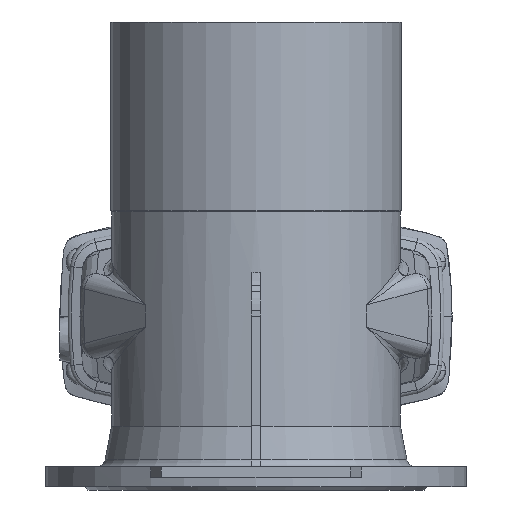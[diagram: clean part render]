
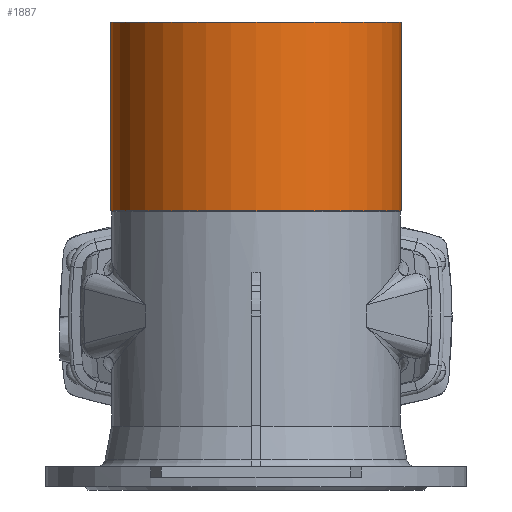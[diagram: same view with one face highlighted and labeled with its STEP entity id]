
A CAD part, front view. The second image highlights one B-rep face of the part: STEP entity #1887.
In plain terms, the highlighted cylindrical face has radius 137.7 mm (diameter 275.4 mm), a partial arc.
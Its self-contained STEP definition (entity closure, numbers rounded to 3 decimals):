
#777 = DIRECTION ( 'NONE',  ( 1., 0., 0. ) ) ;
#782 = DIRECTION ( 'NONE',  ( 0., 0., 1. ) ) ;
#784 = CARTESIAN_POINT ( 'NONE',  ( 0., -305., 324.481 ) ) ;
#1219 = ORIENTED_EDGE ( 'NONE', *, *, #2217, .T. ) ;
#1248 = ORIENTED_EDGE ( 'NONE', *, *, #14351, .F. ) ;
#1265 = ORIENTED_EDGE ( 'NONE', *, *, #2215, .F. ) ;
#1266 = ORIENTED_EDGE ( 'NONE', *, *, #14353, .T. ) ;
#1887 = ADVANCED_FACE ( 'NONE', ( #4975 ), #4979, .T. ) ;
#2215 = EDGE_CURVE ( 'NONE', #14748, #14784, #20659, .T. ) ;
#2217 = EDGE_CURVE ( 'NONE', #4200, #14744, #20660, .T. ) ;
#4200 = VERTEX_POINT ( 'NONE', #7563 ) ;
#4975 = FACE_OUTER_BOUND ( 'NONE', #12924, .T. ) ;
#4979 = CYLINDRICAL_SURFACE ( 'NONE', #12016, 137.7 ) ;
#7563 = CARTESIAN_POINT ( 'NONE',  ( 137.7, -305., 100. ) ) ;
#9196 = AXIS2_PLACEMENT_3D ( 'NONE', #10680, #10681, #10682 ) ;
#9197 = AXIS2_PLACEMENT_3D ( 'NONE', #10690, #10691, #10692 ) ;
#10680 = CARTESIAN_POINT ( 'NONE',  ( 0., -305., 279. ) ) ;
#10681 = DIRECTION ( 'NONE',  ( 0., 0., 1. ) ) ;
#10682 = DIRECTION ( 'NONE',  ( 1., 0., 0. ) ) ;
#10690 = CARTESIAN_POINT ( 'NONE',  ( 0., -305., 100. ) ) ;
#10691 = DIRECTION ( 'NONE',  ( 0., 0., 1. ) ) ;
#10692 = DIRECTION ( 'NONE',  ( 1., 0., 0. ) ) ;
#11633 = CARTESIAN_POINT ( 'NONE',  ( 137.7, -305., 279. ) ) ;
#11637 = CARTESIAN_POINT ( 'NONE',  ( -137.7, -305., 100. ) ) ;
#11673 = CARTESIAN_POINT ( 'NONE',  ( -137.7, -305., 279. ) ) ;
#12016 = AXIS2_PLACEMENT_3D ( 'NONE', #784, #782, #777 ) ;
#12924 = EDGE_LOOP ( 'NONE', ( #1265, #1266, #1219, #1248 ) ) ;
#14351 = EDGE_CURVE ( 'NONE', #14784, #14744, #21355, .T. ) ;
#14353 = EDGE_CURVE ( 'NONE', #14748, #4200, #21356, .T. ) ;
#14744 = VERTEX_POINT ( 'NONE', #11633 ) ;
#14748 = VERTEX_POINT ( 'NONE', #11637 ) ;
#14784 = VERTEX_POINT ( 'NONE', #11673 ) ;
#16292 = DIRECTION ( 'NONE',  ( 0., 0., 1. ) ) ;
#16328 = DIRECTION ( 'NONE',  ( 0., 0., 1. ) ) ;
#16338 = CARTESIAN_POINT ( 'NONE',  ( -137.7, -305., 324.481 ) ) ;
#16342 = CARTESIAN_POINT ( 'NONE',  ( 137.7, -305., 324.481 ) ) ;
#20659 = LINE ( 'NONE', #16338, #20662 ) ;
#20660 = LINE ( 'NONE', #16342, #20665 ) ;
#20662 = VECTOR ( 'NONE', #16328, 1000. ) ;
#20665 = VECTOR ( 'NONE', #16292, 1000. ) ;
#21355 = CIRCLE ( 'NONE', #9196, 137.7 ) ;
#21356 = CIRCLE ( 'NONE', #9197, 137.7 ) ;
